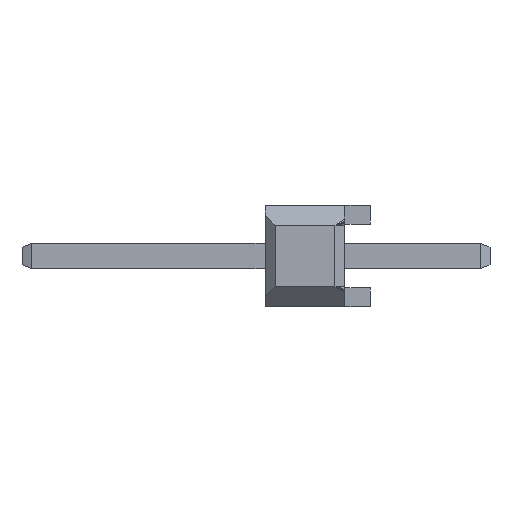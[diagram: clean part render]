
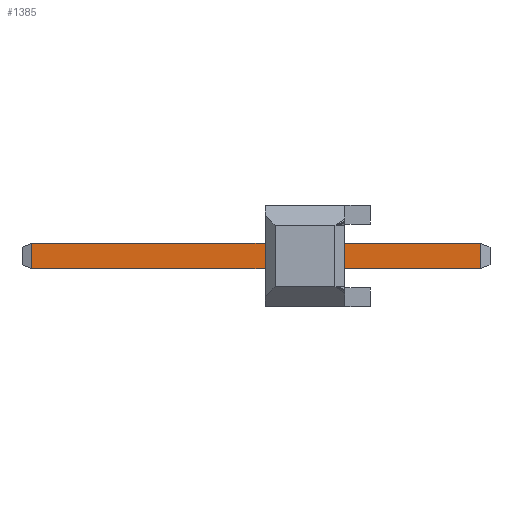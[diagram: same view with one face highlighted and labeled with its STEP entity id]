
A CAD part, left-side view. The second image highlights one B-rep face of the part: STEP entity #1385.
In plain terms, the highlighted planar face has unit normal (-1, 0, 0).
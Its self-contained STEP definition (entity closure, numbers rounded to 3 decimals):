
#1265 = EDGE_CURVE('',#1266,#1268,#1270,.T.);
#1266 = VERTEX_POINT('',#1267);
#1267 = CARTESIAN_POINT('',(-0.32,8.49,-0.32));
#1268 = VERTEX_POINT('',#1269);
#1269 = CARTESIAN_POINT('',(-0.32,-2.75,-0.32));
#1270 = LINE('',#1271,#1272);
#1271 = CARTESIAN_POINT('',(-0.32,8.74,-0.32));
#1272 = VECTOR('',#1273,1.);
#1273 = DIRECTION('',(0.,-1.,0.));
#1360 = VERTEX_POINT('',#1361);
#1361 = CARTESIAN_POINT('',(-0.32,-2.75,0.32));
#1367 = EDGE_CURVE('',#1368,#1360,#1370,.T.);
#1368 = VERTEX_POINT('',#1369);
#1369 = CARTESIAN_POINT('',(-0.32,8.49,0.32));
#1370 = LINE('',#1371,#1372);
#1371 = CARTESIAN_POINT('',(-0.32,8.74,0.32));
#1372 = VECTOR('',#1373,1.);
#1373 = DIRECTION('',(0.,-1.,0.));
#1385 = ADVANCED_FACE('',(#1386),#1402,.F.);
#1386 = FACE_BOUND('',#1387,.F.);
#1387 = EDGE_LOOP('',(#1388,#1389,#1395,#1396));
#1388 = ORIENTED_EDGE('',*,*,#1367,.T.);
#1389 = ORIENTED_EDGE('',*,*,#1390,.T.);
#1390 = EDGE_CURVE('',#1360,#1268,#1391,.T.);
#1391 = LINE('',#1392,#1393);
#1392 = CARTESIAN_POINT('',(-0.32,-2.75,0.32));
#1393 = VECTOR('',#1394,1.);
#1394 = DIRECTION('',(0.,0.,-1.));
#1395 = ORIENTED_EDGE('',*,*,#1265,.F.);
#1396 = ORIENTED_EDGE('',*,*,#1397,.F.);
#1397 = EDGE_CURVE('',#1368,#1266,#1398,.T.);
#1398 = LINE('',#1399,#1400);
#1399 = CARTESIAN_POINT('',(-0.32,8.49,0.32));
#1400 = VECTOR('',#1401,1.);
#1401 = DIRECTION('',(0.,0.,-1.));
#1402 = PLANE('',#1403);
#1403 = AXIS2_PLACEMENT_3D('',#1404,#1405,#1406);
#1404 = CARTESIAN_POINT('',(-0.32,8.74,0.32));
#1405 = DIRECTION('',(1.,0.,0.));
#1406 = DIRECTION('',(0.,0.,-1.));
